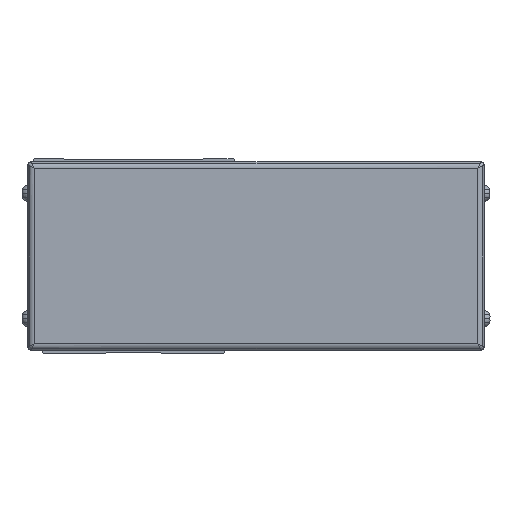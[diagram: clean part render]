
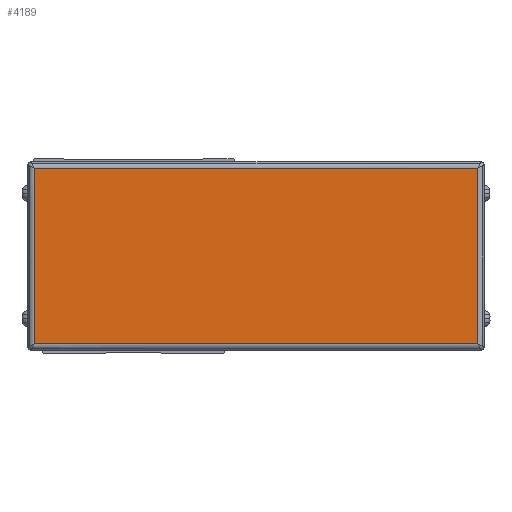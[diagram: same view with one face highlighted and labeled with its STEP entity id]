
A CAD part, front view. The second image highlights one B-rep face of the part: STEP entity #4189.
In plain terms, the highlighted planar face has unit normal (0, -1, 0).
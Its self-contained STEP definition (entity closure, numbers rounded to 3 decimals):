
#4189=ADVANCED_FACE('',(#8952),#8953,.T.);
#8952=FACE_OUTER_BOUND('',#14963,.T.);
#8953=PLANE('',#14964);
#14963=EDGE_LOOP('',(#27081,#27082,#27083,#27084));
#14964=AXIS2_PLACEMENT_3D('',#27085,#27086,#27087);
#27081=ORIENTED_EDGE('',*,*,#38263,.F.);
#27082=ORIENTED_EDGE('',*,*,#37594,.F.);
#27083=ORIENTED_EDGE('',*,*,#38264,.F.);
#27084=ORIENTED_EDGE('',*,*,#37944,.F.);
#27085=CARTESIAN_POINT('',(339.,106.,-4.));
#27086=DIRECTION('',(0.,-1.0,0.));
#27087=DIRECTION('',(0.,0.,1.0));
#37594=EDGE_CURVE('',#46297,#46299,#46300,.T.);
#37944=EDGE_CURVE('',#46774,#46078,#46776,.T.);
#38263=EDGE_CURVE('',#46299,#46774,#47185,.T.);
#38264=EDGE_CURVE('',#46078,#46297,#47186,.T.);
#46078=VERTEX_POINT('',#58092);
#46297=VERTEX_POINT('',#58403);
#46299=VERTEX_POINT('',#58405);
#46300=LINE('',#58406,#58407);
#46774=VERTEX_POINT('',#59129);
#46776=LINE('',#59131,#59132);
#47185=LINE('',#59698,#59699);
#47186=LINE('',#59700,#59701);
#58092=CARTESIAN_POINT('',(409.7,106.,-32.));
#58403=CARTESIAN_POINT('',(268.3,106.,-32.));
#58405=CARTESIAN_POINT('',(268.3,106.,24.));
#58406=CARTESIAN_POINT('',(268.3,106.,-4.));
#58407=VECTOR('',#66791,10.0);
#59129=CARTESIAN_POINT('',(409.7,106.,24.));
#59131=CARTESIAN_POINT('',(409.7,106.,-4.));
#59132=VECTOR('',#67160,10.0);
#59698=CARTESIAN_POINT('',(339.,106.,24.));
#59699=VECTOR('',#67507,10.0);
#59700=CARTESIAN_POINT('',(339.,106.,-32.));
#59701=VECTOR('',#67508,10.0);
#66791=DIRECTION('',(0.,0.,1.0));
#67160=DIRECTION('',(0.,0.,-1.0));
#67507=DIRECTION('',(1.0,0.,0.));
#67508=DIRECTION('',(-1.0,0.,0.));
